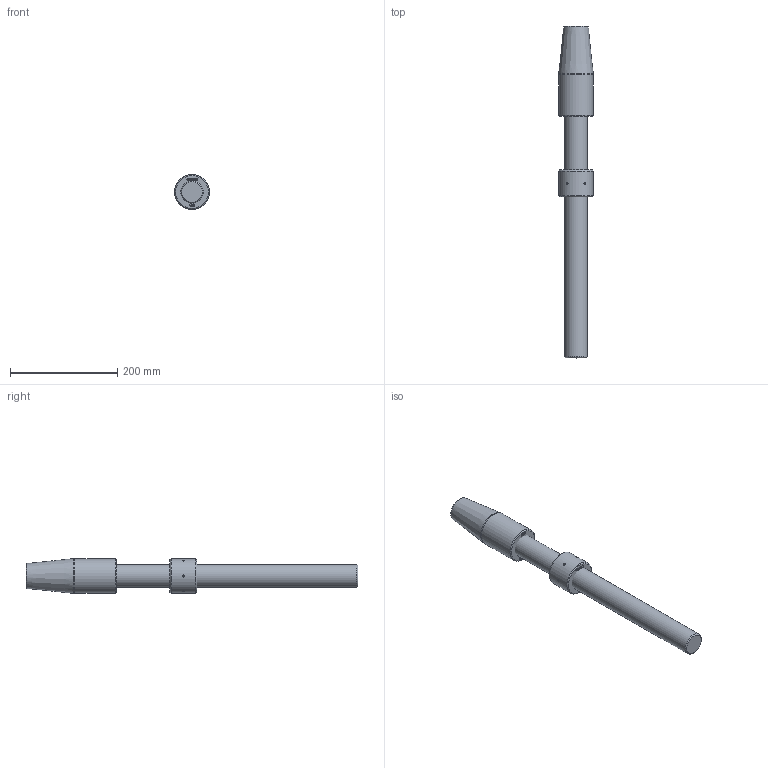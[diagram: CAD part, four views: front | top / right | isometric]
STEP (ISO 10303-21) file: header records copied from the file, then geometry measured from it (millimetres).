
FILE_DESCRIPTION(/* description */ (''),/* implementation_level */ '2;1');
FILE_NAME(/* name */ 'C:\Users\ranca\Desktop\CYM\ARRANGEMENT\CYM020 52 061 0.stp',/* time_stamp */ '2021-04-21T19:24:16+02:00',/* author */ ('ranca'),/* organization */ (''),/* preprocessor_version */ 'ST-DEVELOPER v16.13',/* originating_system */ 'Autodesk Inventor 2018',/* authorisation */ '');
FILE_SCHEMA (('AUTOMOTIVE_DESIGN { 1 0 10303 214 3 1 1 }'));
Length unit declared in the file: millimetre
Products named in the file (4): CYB012-52-061-0; CYM012-52-061-0_ROD; CYC020 52 065 0_CYL SOK_RH; CYM020-41-051-0
Assembly tree (3 placements, depth 2):
  CYB012-52-061-0
    CYM012-52-061-0_ROD
    CYC020 52 065 0_CYL SOK_RH
    CYM020-41-051-0
Bounding box: 65 x 618 x 65 mm (x, y, z)
Volume: 1335394.2 mm3; surface area: 121559.2 mm2
Topology: 3 solids, 3 shells, 508 faces, 1363 edges, 906 vertices
Faces by surface type: bspline 281, plane 205, cone 11, cylinder 9, torus 2
Full cylindrical faces by diameter (mm): 4 x6, 42 x1, 65 x2
Entity records: 17404 total; most frequent: CARTESIAN_POINT 6627, ORIENTED_EDGE 2668, EDGE_CURVE 1334, DIRECTION 1251, VERTEX_POINT 900, LINE 739, VECTOR 739, EDGE_LOOP 576
